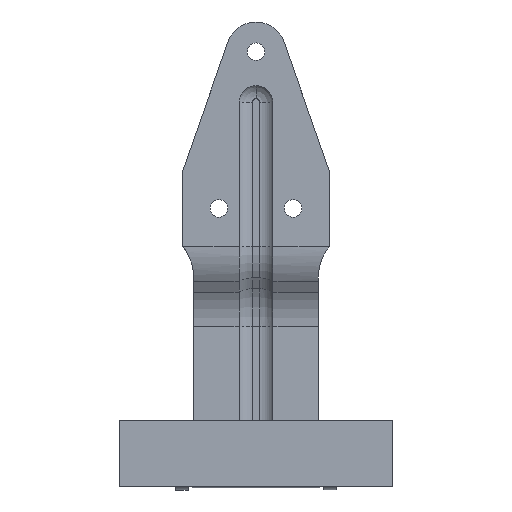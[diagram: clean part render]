
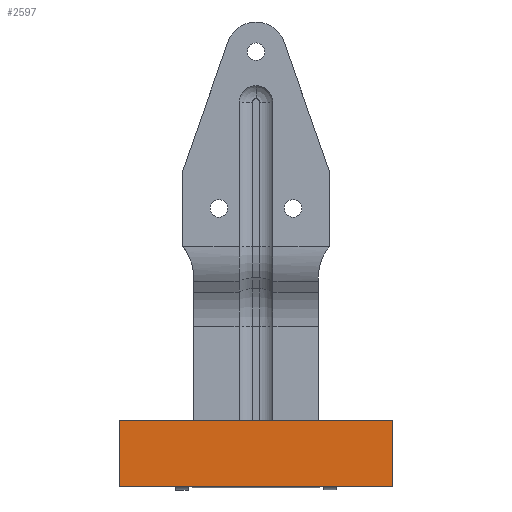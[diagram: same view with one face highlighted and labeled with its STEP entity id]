
A CAD part, front view. The second image highlights one B-rep face of the part: STEP entity #2597.
In plain terms, the highlighted planar face has unit normal (0, -1, 0).
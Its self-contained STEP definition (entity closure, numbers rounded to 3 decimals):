
#36 = DIRECTION ( 'NONE',  ( 0., 0., -1. ) ) ;
#56 = CARTESIAN_POINT ( 'NONE',  ( -52.074, 0., 5.143 ) ) ;
#78 = DIRECTION ( 'NONE',  ( -1., 0., 0. ) ) ;
#102 = VECTOR ( 'NONE', #78, 1000. ) ;
#200 = DIRECTION ( 'NONE',  ( 0., 0., 1. ) ) ;
#260 = LINE ( 'NONE', #1230, #835 ) ;
#300 = LINE ( 'NONE', #56, #383 ) ;
#350 = LINE ( 'NONE', #599, #102 ) ;
#383 = VECTOR ( 'NONE', #1282, 1000. ) ;
#398 = AXIS2_PLACEMENT_3D ( 'NONE', #2852, #428, #200 ) ;
#428 = DIRECTION ( 'NONE',  ( 0., 1., 0. ) ) ;
#446 = VERTEX_POINT ( 'NONE', #859 ) ;
#478 = VECTOR ( 'NONE', #1195, 1000. ) ;
#599 = CARTESIAN_POINT ( 'NONE',  ( -52.074, 0., -26.357 ) ) ;
#664 = FACE_OUTER_BOUND ( 'NONE', #754, .T. ) ;
#669 = CARTESIAN_POINT ( 'NONE',  ( -52.074, 0., -26.357 ) ) ;
#754 = EDGE_LOOP ( 'NONE', ( #2228, #1962, #1525, #2839 ) ) ;
#835 = VECTOR ( 'NONE', #36, 1000. ) ;
#859 = CARTESIAN_POINT ( 'NONE',  ( 76.926, 0., -26.357 ) ) ;
#1120 = CARTESIAN_POINT ( 'NONE',  ( 76.926, 0., 5.143 ) ) ;
#1195 = DIRECTION ( 'NONE',  ( 0., 0., 1. ) ) ;
#1230 = CARTESIAN_POINT ( 'NONE',  ( 76.926, 0., -26.357 ) ) ;
#1265 = CARTESIAN_POINT ( 'NONE',  ( -52.074, 0., -26.357 ) ) ;
#1282 = DIRECTION ( 'NONE',  ( 1., 0., 0. ) ) ;
#1316 = VERTEX_POINT ( 'NONE', #1265 ) ;
#1340 = EDGE_CURVE ( 'NONE', #1316, #2583, #1886, .T. ) ;
#1484 = EDGE_CURVE ( 'NONE', #1759, #446, #260, .T. ) ;
#1525 = ORIENTED_EDGE ( 'NONE', *, *, #1484, .F. ) ;
#1629 = PLANE ( 'NONE',  #398 ) ;
#1759 = VERTEX_POINT ( 'NONE', #1120 ) ;
#1886 = LINE ( 'NONE', #669, #478 ) ;
#1962 = ORIENTED_EDGE ( 'NONE', *, *, #2477, .F. ) ;
#2043 = EDGE_CURVE ( 'NONE', #2583, #1759, #300, .T. ) ;
#2228 = ORIENTED_EDGE ( 'NONE', *, *, #1340, .F. ) ;
#2477 = EDGE_CURVE ( 'NONE', #446, #1316, #350, .T. ) ;
#2583 = VERTEX_POINT ( 'NONE', #2585 ) ;
#2585 = CARTESIAN_POINT ( 'NONE',  ( -52.074, 0., 5.143 ) ) ;
#2597 = ADVANCED_FACE ( 'NONE', ( #664 ), #1629, .F. ) ;
#2839 = ORIENTED_EDGE ( 'NONE', *, *, #2043, .F. ) ;
#2852 = CARTESIAN_POINT ( 'NONE',  ( 0., 0., 0. ) ) ;
